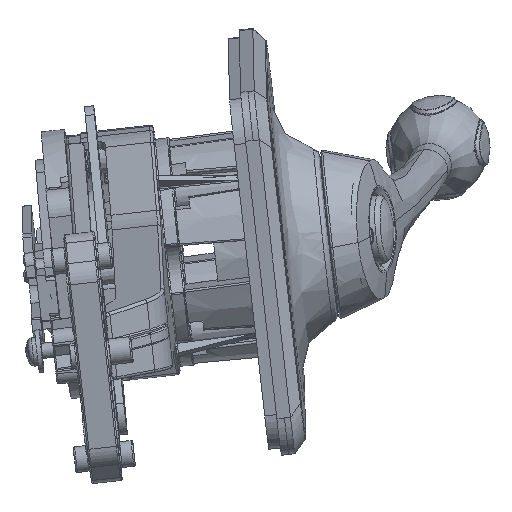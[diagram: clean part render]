
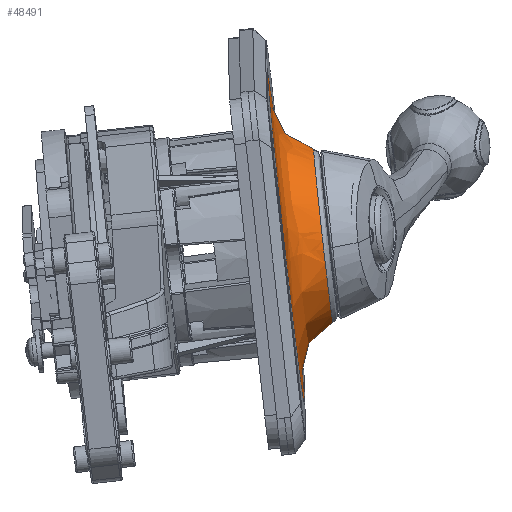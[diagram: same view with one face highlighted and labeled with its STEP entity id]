
A CAD part, front view. The second image highlights one B-rep face of the part: STEP entity #48491.
In plain terms, the highlighted free-form (B-spline) face has degree [3, 2] with [4, 9] control points.
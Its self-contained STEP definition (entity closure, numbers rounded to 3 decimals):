
#543=(
BOUNDED_SURFACE()
B_SPLINE_SURFACE(3,2,((#117620,#117621,#117622,#117623,#117624,#117625,
#117626,#117627,#117628),(#117629,#117630,#117631,#117632,#117633,#117634,
#117635,#117636,#117637),(#117638,#117639,#117640,#117641,#117642,#117643,
#117644,#117645,#117646),(#117647,#117648,#117649,#117650,#117651,#117652,
#117653,#117654,#117655)),.UNSPECIFIED.,.F.,.T.,.F.)
B_SPLINE_SURFACE_WITH_KNOTS((4,4),(3,2,2,2,3),(0.,1.),(0.,1.571,
3.142,4.712,6.283),.UNSPECIFIED.)
GEOMETRIC_REPRESENTATION_ITEM()
RATIONAL_B_SPLINE_SURFACE(((1.,0.707,1.,0.707,1.,
0.707,1.,0.707,1.),(1.,0.707,1.,0.707,
1.,0.707,1.,0.707,1.),(1.,0.707,1.,
0.707,1.,0.707,1.,0.707,1.),(1.,0.707,
1.,0.707,1.,0.707,1.,0.707,1.)))
REPRESENTATION_ITEM('')
SURFACE()
);
#11465=FACE_OUTER_BOUND('',#14512,.T.);
#14512=EDGE_LOOP('',(#44947,#44948,#44949,#44950));
#17207=CIRCLE('',#54206,54.466);
#18752=B_SPLINE_CURVE_WITH_KNOTS('',3,(#117499,#117500,#117501,#117502,
#117503,#117504,#117505,#117506,#117507,#117508,#117509,#117510,#117511,
#117512,#117513,#117514,#117515,#117516,#117517,#117518,#117519,#117520,
#117521,#117522,#117523,#117524,#117525),.UNSPECIFIED.,.T.,.F.,(4,1,1,1,
1,1,1,1,1,1,1,1,1,1,1,1,1,1,1,1,1,1,1,1,4),(-17.556,-17.086,
-16.616,-16.302,-15.048,-13.376,
-13.272,-12.749,-12.54,-11.704,
-10.868,-10.032,-8.36,-8.151,
-7.524,-6.688,-5.016,-4.389,-4.076,
-3.135,-2.508,-1.881,-1.254,
-0.627,0.),.UNSPECIFIED.);
#18758=B_SPLINE_CURVE_WITH_KNOTS('',3,(#117656,#117657,#117658,#117659),
 .UNSPECIFIED.,.F.,.F.,(4,4),(0.,0.954),.UNSPECIFIED.);
#23297=VERTEX_POINT('',#117207);
#23329=VERTEX_POINT('',#117497);
#30482=EDGE_CURVE('',#23297,#23297,#17207,.T.);
#30542=EDGE_CURVE('',#23329,#23329,#18752,.T.);
#30560=EDGE_CURVE('',#23297,#23329,#18758,.T.);
#44947=ORIENTED_EDGE('',*,*,#30542,.F.);
#44948=ORIENTED_EDGE('',*,*,#30560,.F.);
#44949=ORIENTED_EDGE('',*,*,#30482,.T.);
#44950=ORIENTED_EDGE('',*,*,#30560,.T.);
#48491=ADVANCED_FACE('',(#11465),#543,.F.);
#54206=AXIS2_PLACEMENT_3D('',#117208,#67211,#67212);
#67211=DIRECTION('center_axis',(0.,-1.,0.));
#67212=DIRECTION('ref_axis',(0.588,0.,0.809));
#117207=CARTESIAN_POINT('',(0.,-7.025,54.466));
#117208=CARTESIAN_POINT('Origin',(0.,-7.025,0.));
#117497=CARTESIAN_POINT('',(0.,-19.327,28.569));
#117499=CARTESIAN_POINT('Ctrl Pts',(0.,-19.327,
28.569));
#117500=CARTESIAN_POINT('Ctrl Pts',(-1.593,-19.327,
28.569));
#117501=CARTESIAN_POINT('Ctrl Pts',(-4.793,-19.327,
28.301));
#117502=CARTESIAN_POINT('Ctrl Pts',(-8.923,-19.327,
27.237));
#117503=CARTESIAN_POINT('Ctrl Pts',(-15.337,-19.327,
24.601));
#117504=CARTESIAN_POINT('Ctrl Pts',(-24.228,-19.327,
17.545));
#117505=CARTESIAN_POINT('Ctrl Pts',(-28.2,-19.327,
7.525));
#117506=CARTESIAN_POINT('Ctrl Pts',(-28.632,-19.327,
-0.324));
#117507=CARTESIAN_POINT('Ctrl Pts',(-28.482,-19.327,
-3.157));
#117508=CARTESIAN_POINT('Ctrl Pts',(-27.492,-19.327,
-8.437));
#117509=CARTESIAN_POINT('Ctrl Pts',(-25.133,-19.327,
-14.464));
#117510=CARTESIAN_POINT('Ctrl Pts',(-19.751,-19.327,
-21.231));
#117511=CARTESIAN_POINT('Ctrl Pts',(-10.229,-19.327,
-27.751));
#117512=CARTESIAN_POINT('Ctrl Pts',(-0.677,-19.327,
-29.224));
#117513=CARTESIAN_POINT('Ctrl Pts',(7.745,-19.327,
-27.614));
#117514=CARTESIAN_POINT('Ctrl Pts',(13.147,-19.327,
-25.733));
#117515=CARTESIAN_POINT('Ctrl Pts',(22.112,-19.327,-19.656));
#117516=CARTESIAN_POINT('Ctrl Pts',(27.7,-19.327,
-10.003));
#117517=CARTESIAN_POINT('Ctrl Pts',(28.685,-19.327,
-1.079));
#117518=CARTESIAN_POINT('Ctrl Pts',(28.333,-19.327,
5.328));
#117519=CARTESIAN_POINT('Ctrl Pts',(26.539,-19.327,11.581));
#117520=CARTESIAN_POINT('Ctrl Pts',(22.523,-19.327,
17.959));
#117521=CARTESIAN_POINT('Ctrl Pts',(17.976,-19.327,
22.517));
#117522=CARTESIAN_POINT('Ctrl Pts',(12.493,-19.327,
25.959));
#117523=CARTESIAN_POINT('Ctrl Pts',(6.429,-19.327,
28.084));
#117524=CARTESIAN_POINT('Ctrl Pts',(2.124,-19.327,
28.569));
#117525=CARTESIAN_POINT('Ctrl Pts',(0.,-19.327,
28.569));
#117620=CARTESIAN_POINT('Ctrl Pts',(0.,-7.025,
54.466));
#117621=CARTESIAN_POINT('Ctrl Pts',(-54.466,-7.025,54.466));
#117622=CARTESIAN_POINT('Ctrl Pts',(-54.466,-7.025,0.));
#117623=CARTESIAN_POINT('Ctrl Pts',(-54.466,-7.025,-54.466));
#117624=CARTESIAN_POINT('Ctrl Pts',(0.,-7.025,
-54.466));
#117625=CARTESIAN_POINT('Ctrl Pts',(54.466,-7.025,-54.466));
#117626=CARTESIAN_POINT('Ctrl Pts',(54.466,-7.025,0.));
#117627=CARTESIAN_POINT('Ctrl Pts',(54.466,-7.025,54.466));
#117628=CARTESIAN_POINT('Ctrl Pts',(0.,-7.025,
54.466));
#117629=CARTESIAN_POINT('Ctrl Pts',(0.,-7.025,
42.123));
#117630=CARTESIAN_POINT('Ctrl Pts',(-42.123,-7.025,42.123));
#117631=CARTESIAN_POINT('Ctrl Pts',(-42.123,-7.025,0.));
#117632=CARTESIAN_POINT('Ctrl Pts',(-42.123,-7.025,-42.123));
#117633=CARTESIAN_POINT('Ctrl Pts',(0.,-7.025,
-42.123));
#117634=CARTESIAN_POINT('Ctrl Pts',(42.123,-7.025,-42.123));
#117635=CARTESIAN_POINT('Ctrl Pts',(42.123,-7.025,0.));
#117636=CARTESIAN_POINT('Ctrl Pts',(42.123,-7.025,42.123));
#117637=CARTESIAN_POINT('Ctrl Pts',(0.,-7.025,
42.123));
#117638=CARTESIAN_POINT('Ctrl Pts',(0.,-7.025,32.844));
#117639=CARTESIAN_POINT('Ctrl Pts',(-32.844,-7.025,32.844));
#117640=CARTESIAN_POINT('Ctrl Pts',(-32.844,-7.025,0.));
#117641=CARTESIAN_POINT('Ctrl Pts',(-32.844,-7.025,-32.844));
#117642=CARTESIAN_POINT('Ctrl Pts',(0.,-7.025,-32.844));
#117643=CARTESIAN_POINT('Ctrl Pts',(32.844,-7.025,-32.844));
#117644=CARTESIAN_POINT('Ctrl Pts',(32.844,-7.025,0.));
#117645=CARTESIAN_POINT('Ctrl Pts',(32.844,-7.025,32.844));
#117646=CARTESIAN_POINT('Ctrl Pts',(0.,-7.025,32.844));
#117647=CARTESIAN_POINT('Ctrl Pts',(0.,-21.173,27.862));
#117648=CARTESIAN_POINT('Ctrl Pts',(-27.862,-21.173,27.862));
#117649=CARTESIAN_POINT('Ctrl Pts',(-27.862,-21.173,0.));
#117650=CARTESIAN_POINT('Ctrl Pts',(-27.862,-21.173,-27.862));
#117651=CARTESIAN_POINT('Ctrl Pts',(0.,-21.173,-27.862));
#117652=CARTESIAN_POINT('Ctrl Pts',(27.862,-21.173,-27.862));
#117653=CARTESIAN_POINT('Ctrl Pts',(27.862,-21.173,0.));
#117654=CARTESIAN_POINT('Ctrl Pts',(27.862,-21.173,27.862));
#117655=CARTESIAN_POINT('Ctrl Pts',(0.,-21.173,27.862));
#117656=CARTESIAN_POINT('Ctrl Pts',(0.,-7.025,
54.466));
#117657=CARTESIAN_POINT('Ctrl Pts',(0.,-7.025,
42.685));
#117658=CARTESIAN_POINT('Ctrl Pts',(0.,-7.025,
33.695));
#117659=CARTESIAN_POINT('Ctrl Pts',(0.,-19.327,
28.569));
